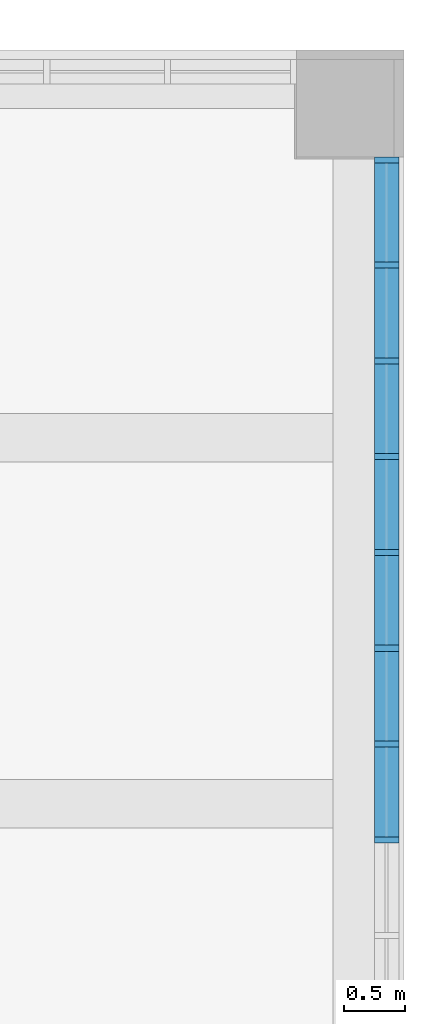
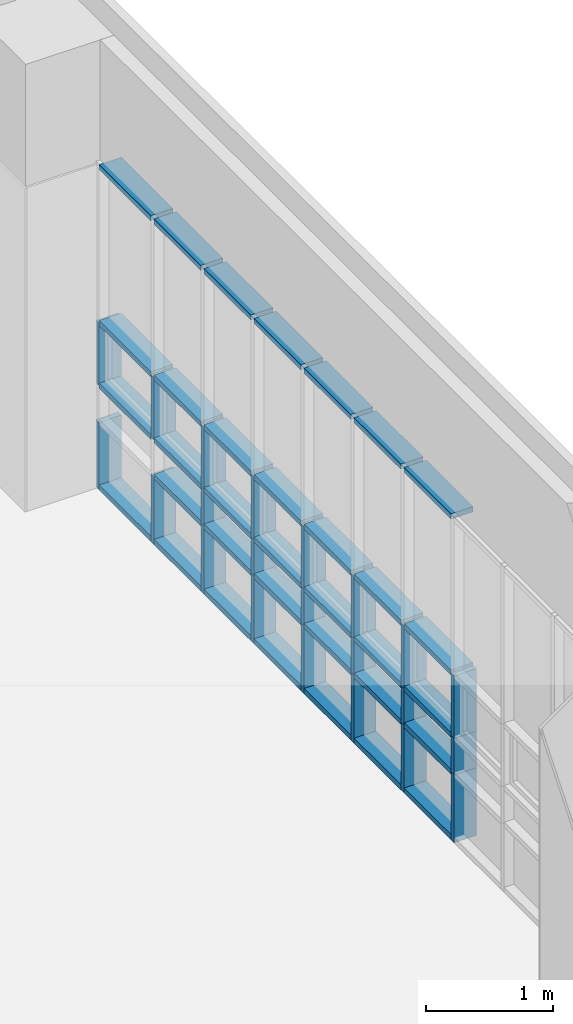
# One storey, part 27 of 74: 56 members, 1 element without a shape of its own.
"""IFC2X3 building model written with IfcOpenShell, lengths in millimetres."""

from ifc_helpers import new_model, entity, si_unit, converted_unit, derived_unit, direction, frame, origin, origin_2d_with_axis, place, context, subcontext, project, spatial, rectangle, extrude, source, transform, mapped, material, type_object, type_shapes, element, aggregate, save


model = new_model("IFC2X3")

# Units and contexts
model_context = context("Model", 3, precision=0.01, world=origin(), true_north=direction((6.123031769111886e-17, 1.0)))
body_context = subcontext(model_context, "Body", "Model", "MODEL_VIEW")
ifc_project = project(units=[si_unit("LENGTHUNIT", "METRE", prefix="MILLI"), si_unit("AREAUNIT", "SQUARE_METRE"), si_unit("VOLUMEUNIT", "CUBIC_METRE"), converted_unit("PLANEANGLEUNIT", "DEGREE", entity("IfcRatioMeasure", 0.017453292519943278), si_unit("PLANEANGLEUNIT", "RADIAN"), dimensions=[0, 0, 0, 0, 0, 0, 0]), si_unit("MASSUNIT", "GRAM", prefix="KILO"), derived_unit("MASSDENSITYUNIT", [(si_unit("MASSUNIT", "GRAM", prefix="KILO"), 1), (si_unit("LENGTHUNIT", "METRE"), -3)]), derived_unit("MOMENTOFINERTIAUNIT", [(si_unit("LENGTHUNIT", "METRE"), 4)]), si_unit("TIMEUNIT", "SECOND"), si_unit("FREQUENCYUNIT", "HERTZ"), si_unit("THERMODYNAMICTEMPERATUREUNIT", "DEGREE_CELSIUS"), derived_unit("THERMALTRANSMITTANCEUNIT", [(si_unit("MASSUNIT", "GRAM", prefix="KILO"), 1), (si_unit("THERMODYNAMICTEMPERATUREUNIT", "KELVIN"), -1), (si_unit("TIMEUNIT", "SECOND"), -3)]), derived_unit("VOLUMETRICFLOWRATEUNIT", [(si_unit("LENGTHUNIT", "METRE"), 3), (si_unit("TIMEUNIT", "SECOND"), -1)]), derived_unit("MASSFLOWRATEUNIT", [(si_unit("MASSUNIT", "GRAM", prefix="KILO"), 1), (si_unit("TIMEUNIT", "SECOND"), -1)]), derived_unit("ROTATIONALFREQUENCYUNIT", [(si_unit("TIMEUNIT", "SECOND"), -1)]), si_unit("ELECTRICCURRENTUNIT", "AMPERE"), si_unit("ELECTRICVOLTAGEUNIT", "VOLT"), si_unit("POWERUNIT", "WATT"), si_unit("FORCEUNIT", "NEWTON", prefix="KILO"), si_unit("ILLUMINANCEUNIT", "LUX"), si_unit("LUMINOUSFLUXUNIT", "LUMEN"), si_unit("LUMINOUSINTENSITYUNIT", "CANDELA"), derived_unit("USERDEFINED", [(si_unit("MASSUNIT", "GRAM", prefix="KILO"), -1), (si_unit("LENGTHUNIT", "METRE"), -2), (si_unit("TIMEUNIT", "SECOND"), 3), (si_unit("LUMINOUSFLUXUNIT", "LUMEN"), 1)]), derived_unit("SOUNDPOWERUNIT", [(si_unit("MASSUNIT", "GRAM", prefix="KILO"), 1), (si_unit("LENGTHUNIT", "METRE"), 2), (si_unit("TIMEUNIT", "SECOND"), -3)]), derived_unit("SOUNDPRESSUREUNIT", [(si_unit("MASSUNIT", "GRAM", prefix="KILO"), 1), (si_unit("LENGTHUNIT", "METRE"), -1), (si_unit("TIMEUNIT", "SECOND"), -2)]), derived_unit("LINEARVELOCITYUNIT", [(si_unit("LENGTHUNIT", "METRE"), 1), (si_unit("TIMEUNIT", "SECOND"), -1)]), si_unit("PRESSUREUNIT", "PASCAL"), derived_unit("USERDEFINED", [(si_unit("LENGTHUNIT", "METRE"), -2), (si_unit("MASSUNIT", "GRAM", prefix="KILO"), 1), (si_unit("TIMEUNIT", "SECOND"), -2)]), derived_unit("LINEARFORCEUNIT", [(si_unit("MASSUNIT", "GRAM", prefix="KILO"), 1), (si_unit("LENGTHUNIT", "METRE"), 1), (si_unit("TIMEUNIT", "SECOND"), -2), (si_unit("LENGTHUNIT", "METRE"), -1)]), derived_unit("PLANARFORCEUNIT", [(si_unit("MASSUNIT", "GRAM", prefix="KILO"), 1), (si_unit("LENGTHUNIT", "METRE"), 1), (si_unit("TIMEUNIT", "SECOND"), -2), (si_unit("LENGTHUNIT", "METRE"), -2)])], contexts=[model_context])

# Site, building, storey
site_placement = place(None, frame((-14167.972527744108, -657.2125860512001, 0.0)))
site = spatial("IfcSite", under=ifc_project, at=site_placement, Name="Default", CompositionType="ELEMENT")
building_placement = place(site_placement, origin())
building = spatial("IfcBuilding", under=site, at=building_placement, Name="Sample Building", CompositionType="ELEMENT")
storey_placement = place(building_placement, frame((0.0, 0.0, 4800.0)))
storey = spatial("IfcBuildingStorey", under=building, at=storey_placement, Name="지상 2층", CompositionType="ELEMENT", Elevation=4800.000000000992)

# Curtain wall, members
curtain_wall_type = type_object("IfcCurtainWallType", Name="커튼월:CW112-스테인리스 스틸 커튼월", PredefinedType="NOTDEFINED")
curtain_wall_placement = place(storey_placement, frame((0.0, 0.0, -4800.0)))
curtain_wall = element("IfcCurtainWall", 1, at=curtain_wall_placement, inside=storey, type_object=curtain_wall_type, Name="커튼월:CW112-스테인리스 스틸 커튼월", ObjectType="커튼월:CW112-스테인리스 스틸 커튼월")
ifc_material = material(Name="<Unnamed>")
member_type_1 = type_object("IfcMemberType", Name="직사각형 멀리언:CW200-직사각형 멀리언 50x200mm", PredefinedType="MULLION", material=ifc_material)
shared_shape_1 = source(origin(), body_context, "Body", "SweptSolid", [
    extrude(rectangle(XDim=200.0, YDim=50.0, at=origin_2d_with_axis()), frame((-25.0, 0.0, -650.0), z_axis=(0.0, 0.0, 1.0), x_axis=(0.0, -1.0, 0.0)), (0.0, 0.0, 1.0), 650.0000000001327),
])
type_shapes(member_type_1, [shared_shape_1])
member_1_placement = place(curtain_wall_placement, frame((51405.46382893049, 28457.212704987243, 4880.0), z_axis=(0.0, 0.0, -1.0), x_axis=(0.0, 1.0, 0.0)))
member_1 = element("IfcMember", 2, at=member_1_placement, type_object=member_type_1, material=ifc_material, Name="직사각형 멀리언:CW200-직사각형 멀리언 50x200mm", ObjectType="직사각형 멀리언:CW200-직사각형 멀리언 50x200mm", context=body_context, shape_type="MappedRepresentation", body=[
    mapped(shared_shape_1, transform((0.0, 0.0, 0.0), scale=1.0)),
])
member_type_2 = type_object("IfcMemberType", Name="직사각형 멀리언:CW200-직사각형 멀리언 50x200mm", PredefinedType="MULLION", material=ifc_material)
shared_shape_2 = source(origin(), body_context, "Body", "SweptSolid", [
    extrude(rectangle(XDim=200.0, YDim=50.0, at=origin_2d_with_axis()), frame((0.0, 0.0, -650.0), z_axis=(0.0, 0.0, 1.0), x_axis=(0.0, -1.0, 0.0)), (0.0, 0.0, 1.0), 650.0000000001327),
])
type_shapes(member_type_2, [shared_shape_2])
member_2_placement = place(curtain_wall_placement, frame((51405.463828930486, 22862.212275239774, 4880.0), z_axis=(0.0, 0.0, -1.0), x_axis=(0.0, 1.0, 0.0)))
member_2 = element("IfcMember", 3, at=member_2_placement, type_object=member_type_2, material=ifc_material, Name="직사각형 멀리언:CW200-직사각형 멀리언 50x200mm", ObjectType="직사각형 멀리언:CW200-직사각형 멀리언 50x200mm", context=body_context, shape_type="MappedRepresentation", body=[
    mapped(shared_shape_2, transform((0.0, 0.0, 0.0), scale=1.0)),
])
member_3_placement = place(curtain_wall_placement, frame((51405.463828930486, 23647.212275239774, 4880.0), z_axis=(0.0, 0.0, -1.0), x_axis=(0.0, 1.0, 0.0)))
member_3 = element("IfcMember", 4, at=member_3_placement, type_object=member_type_2, material=ifc_material, Name="직사각형 멀리언:CW200-직사각형 멀리언 50x200mm", ObjectType="직사각형 멀리언:CW200-직사각형 멀리언 50x200mm", context=body_context, shape_type="MappedRepresentation", body=[
    mapped(shared_shape_2, transform((0.0, 0.0, 0.0), scale=1.0)),
])
member_4_placement = place(curtain_wall_placement, frame((51405.463828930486, 24432.212275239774, 4880.0), z_axis=(0.0, 0.0, -1.0), x_axis=(0.0, 1.0, 0.0)))
member_4 = element("IfcMember", 5, at=member_4_placement, type_object=member_type_2, material=ifc_material, Name="직사각형 멀리언:CW200-직사각형 멀리언 50x200mm", ObjectType="직사각형 멀리언:CW200-직사각형 멀리언 50x200mm", context=body_context, shape_type="MappedRepresentation", body=[
    mapped(shared_shape_2, transform((0.0, 0.0, 0.0), scale=1.0)),
])
member_5_placement = place(curtain_wall_placement, frame((51405.46382893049, 25217.212275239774, 4880.0), z_axis=(0.0, 0.0, -1.0), x_axis=(0.0, 1.0, 0.0)))
member_5 = element("IfcMember", 6, at=member_5_placement, type_object=member_type_2, material=ifc_material, Name="직사각형 멀리언:CW200-직사각형 멀리언 50x200mm", ObjectType="직사각형 멀리언:CW200-직사각형 멀리언 50x200mm", context=body_context, shape_type="MappedRepresentation", body=[
    mapped(shared_shape_2, transform((0.0, 0.0, 0.0), scale=1.0)),
])
member_6_placement = place(curtain_wall_placement, frame((51405.46382893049, 26002.21227523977, 4880.0), z_axis=(0.0, 0.0, -1.0), x_axis=(0.0, 1.0, 0.0)))
member_6 = element("IfcMember", 7, at=member_6_placement, type_object=member_type_2, material=ifc_material, Name="직사각형 멀리언:CW200-직사각형 멀리언 50x200mm", ObjectType="직사각형 멀리언:CW200-직사각형 멀리언 50x200mm", context=body_context, shape_type="MappedRepresentation", body=[
    mapped(shared_shape_2, transform((0.0, 0.0, 0.0), scale=1.0)),
])
member_7_placement = place(curtain_wall_placement, frame((51405.46382893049, 26787.21227523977, 4880.0), z_axis=(0.0, 0.0, -1.0), x_axis=(0.0, 1.0, 0.0)))
member_7 = element("IfcMember", 8, at=member_7_placement, type_object=member_type_2, material=ifc_material, Name="직사각형 멀리언:CW200-직사각형 멀리언 50x200mm", ObjectType="직사각형 멀리언:CW200-직사각형 멀리언 50x200mm", context=body_context, shape_type="MappedRepresentation", body=[
    mapped(shared_shape_2, transform((0.0, 0.0, 0.0), scale=1.0)),
])
member_8_placement = place(curtain_wall_placement, frame((51405.46382893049, 27572.21227523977, 4880.0), z_axis=(0.0, 0.0, -1.0), x_axis=(0.0, 1.0, 0.0)))
member_8 = element("IfcMember", 9, at=member_8_placement, type_object=member_type_2, material=ifc_material, Name="직사각형 멀리언:CW200-직사각형 멀리언 50x200mm", ObjectType="직사각형 멀리언:CW200-직사각형 멀리언 50x200mm", context=body_context, shape_type="MappedRepresentation", body=[
    mapped(shared_shape_2, transform((0.0, 0.0, 0.0), scale=1.0)),
])
member_type_3 = type_object("IfcMemberType", Name="직사각형 멀리언:CW200-직사각형 멀리언 50x200mm", PredefinedType="MULLION", material=ifc_material)
shared_shape_3 = source(origin(), body_context, "Body", "SweptSolid", [
    extrude(rectangle(XDim=200.0, YDim=50.0, at=origin_2d_with_axis()), frame((-25.0, 0.0, -600.0), z_axis=(0.0, 0.0, 1.0), x_axis=(0.0, -1.0, 0.0)), (0.0, 0.0, 1.0), 600.0),
])
type_shapes(member_type_3, [shared_shape_3])
member_9_placement = place(curtain_wall_placement, frame((51405.46382893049, 28457.212704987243, 5880.0), z_axis=(0.0, 0.0, -1.0), x_axis=(0.0, 1.0, 0.0)))
member_9 = element("IfcMember", 10, at=member_9_placement, type_object=member_type_3, material=ifc_material, Name="직사각형 멀리언:CW200-직사각형 멀리언 50x200mm", ObjectType="직사각형 멀리언:CW200-직사각형 멀리언 50x200mm", context=body_context, shape_type="MappedRepresentation", body=[
    mapped(shared_shape_3, transform((0.0, 0.0, 0.0), scale=1.0)),
])
member_type_4 = type_object("IfcMemberType", Name="직사각형 멀리언:CW200-직사각형 멀리언 50x200mm", PredefinedType="MULLION", material=ifc_material)
shared_shape_4 = source(origin(), body_context, "Body", "SweptSolid", [
    extrude(rectangle(XDim=200.0, YDim=50.0, at=origin_2d_with_axis()), frame((0.0, 0.0, -600.0), z_axis=(0.0, 0.0, 1.0), x_axis=(0.0, -1.0, 0.0)), (0.0, 0.0, 1.0), 600.0),
])
type_shapes(member_type_4, [shared_shape_4])
member_10_placement = place(curtain_wall_placement, frame((51405.463828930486, 22862.212275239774, 5880.0), z_axis=(0.0, 0.0, -1.0), x_axis=(0.0, 1.0, 0.0)))
member_10 = element("IfcMember", 11, at=member_10_placement, type_object=member_type_4, material=ifc_material, Name="직사각형 멀리언:CW200-직사각형 멀리언 50x200mm", ObjectType="직사각형 멀리언:CW200-직사각형 멀리언 50x200mm", context=body_context, shape_type="MappedRepresentation", body=[
    mapped(shared_shape_4, transform((0.0, 0.0, 0.0), scale=1.0)),
])
member_11_placement = place(curtain_wall_placement, frame((51405.463828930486, 23647.212275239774, 5880.0), z_axis=(0.0, 0.0, -1.0), x_axis=(0.0, 1.0, 0.0)))
member_11 = element("IfcMember", 12, at=member_11_placement, type_object=member_type_4, material=ifc_material, Name="직사각형 멀리언:CW200-직사각형 멀리언 50x200mm", ObjectType="직사각형 멀리언:CW200-직사각형 멀리언 50x200mm", context=body_context, shape_type="MappedRepresentation", body=[
    mapped(shared_shape_4, transform((0.0, 0.0, 0.0), scale=1.0)),
])
member_12_placement = place(curtain_wall_placement, frame((51405.463828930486, 24432.212275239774, 5880.0), z_axis=(0.0, 0.0, -1.0), x_axis=(0.0, 1.0, 0.0)))
member_12 = element("IfcMember", 13, at=member_12_placement, type_object=member_type_4, material=ifc_material, Name="직사각형 멀리언:CW200-직사각형 멀리언 50x200mm", ObjectType="직사각형 멀리언:CW200-직사각형 멀리언 50x200mm", context=body_context, shape_type="MappedRepresentation", body=[
    mapped(shared_shape_4, transform((0.0, 0.0, 0.0), scale=1.0)),
])
member_13_placement = place(curtain_wall_placement, frame((51405.46382893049, 25217.212275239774, 5880.0), z_axis=(0.0, 0.0, -1.0), x_axis=(0.0, 1.0, 0.0)))
member_13 = element("IfcMember", 14, at=member_13_placement, type_object=member_type_4, material=ifc_material, Name="직사각형 멀리언:CW200-직사각형 멀리언 50x200mm", ObjectType="직사각형 멀리언:CW200-직사각형 멀리언 50x200mm", context=body_context, shape_type="MappedRepresentation", body=[
    mapped(shared_shape_4, transform((0.0, 0.0, 0.0), scale=1.0)),
])
member_14_placement = place(curtain_wall_placement, frame((51405.46382893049, 26002.21227523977, 5880.0), z_axis=(0.0, 0.0, -1.0), x_axis=(0.0, 1.0, 0.0)))
member_14 = element("IfcMember", 15, at=member_14_placement, type_object=member_type_4, material=ifc_material, Name="직사각형 멀리언:CW200-직사각형 멀리언 50x200mm", ObjectType="직사각형 멀리언:CW200-직사각형 멀리언 50x200mm", context=body_context, shape_type="MappedRepresentation", body=[
    mapped(shared_shape_4, transform((0.0, 0.0, 0.0), scale=1.0)),
])
member_15_placement = place(curtain_wall_placement, frame((51405.46382893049, 26787.21227523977, 5880.0), z_axis=(0.0, 0.0, -1.0), x_axis=(0.0, 1.0, 0.0)))
member_15 = element("IfcMember", 16, at=member_15_placement, type_object=member_type_4, material=ifc_material, Name="직사각형 멀리언:CW200-직사각형 멀리언 50x200mm", ObjectType="직사각형 멀리언:CW200-직사각형 멀리언 50x200mm", context=body_context, shape_type="MappedRepresentation", body=[
    mapped(shared_shape_4, transform((0.0, 0.0, 0.0), scale=1.0)),
])
member_16_placement = place(curtain_wall_placement, frame((51405.46382893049, 27572.21227523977, 5880.0), z_axis=(0.0, 0.0, -1.0), x_axis=(0.0, 1.0, 0.0)))
member_16 = element("IfcMember", 17, at=member_16_placement, type_object=member_type_4, material=ifc_material, Name="직사각형 멀리언:CW200-직사각형 멀리언 50x200mm", ObjectType="직사각형 멀리언:CW200-직사각형 멀리언 50x200mm", context=body_context, shape_type="MappedRepresentation", body=[
    mapped(shared_shape_4, transform((0.0, 0.0, 0.0), scale=1.0)),
])
member_type_5 = type_object("IfcMemberType", Name="직사각형 멀리언:CW200-직사각형 멀리언 50x200mm", PredefinedType="MULLION", material=ifc_material)
shared_shape_5 = source(origin(), body_context, "Body", "SweptSolid", [
    extrude(rectangle(XDim=200.0, YDim=50.0, at=origin_2d_with_axis()), frame((0.0, 0.0, -350.0), z_axis=(0.0, 0.0, 1.0), x_axis=(0.0, -1.0, 0.0)), (0.0, 0.0, 1.0), 349.9999999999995),
])
type_shapes(member_type_5, [shared_shape_5])
member_17_placement = place(curtain_wall_placement, frame((51405.463828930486, 22862.212275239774, 5530.0), z_axis=(0.0, 0.0, -1.0), x_axis=(0.0, 1.0, 0.0)))
member_17 = element("IfcMember", 18, at=member_17_placement, type_object=member_type_5, material=ifc_material, Name="직사각형 멀리언:CW200-직사각형 멀리언 50x200mm", ObjectType="직사각형 멀리언:CW200-직사각형 멀리언 50x200mm", context=body_context, shape_type="MappedRepresentation", body=[
    mapped(shared_shape_5, transform((0.0, 0.0, 0.0), scale=1.0)),
])
member_18_placement = place(curtain_wall_placement, frame((51405.463828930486, 23647.212275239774, 5530.0), z_axis=(0.0, 0.0, -1.0), x_axis=(0.0, 1.0, 0.0)))
member_18 = element("IfcMember", 19, at=member_18_placement, type_object=member_type_5, material=ifc_material, Name="직사각형 멀리언:CW200-직사각형 멀리언 50x200mm", ObjectType="직사각형 멀리언:CW200-직사각형 멀리언 50x200mm", context=body_context, shape_type="MappedRepresentation", body=[
    mapped(shared_shape_5, transform((0.0, 0.0, 0.0), scale=1.0)),
])
member_19_placement = place(curtain_wall_placement, frame((51405.463828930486, 24432.212275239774, 5530.0), z_axis=(0.0, 0.0, -1.0), x_axis=(0.0, 1.0, 0.0)))
member_19 = element("IfcMember", 20, at=member_19_placement, type_object=member_type_5, material=ifc_material, Name="직사각형 멀리언:CW200-직사각형 멀리언 50x200mm", ObjectType="직사각형 멀리언:CW200-직사각형 멀리언 50x200mm", context=body_context, shape_type="MappedRepresentation", body=[
    mapped(shared_shape_5, transform((0.0, 0.0, 0.0), scale=1.0)),
])
member_20_placement = place(curtain_wall_placement, frame((51405.46382893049, 25217.212275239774, 5530.0), z_axis=(0.0, 0.0, -1.0), x_axis=(0.0, 1.0, 0.0)))
member_20 = element("IfcMember", 21, at=member_20_placement, type_object=member_type_5, material=ifc_material, Name="직사각형 멀리언:CW200-직사각형 멀리언 50x200mm", ObjectType="직사각형 멀리언:CW200-직사각형 멀리언 50x200mm", context=body_context, shape_type="MappedRepresentation", body=[
    mapped(shared_shape_5, transform((0.0, 0.0, 0.0), scale=1.0)),
])
member_21_placement = place(curtain_wall_placement, frame((51405.46382893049, 26002.21227523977, 5530.0), z_axis=(0.0, 0.0, -1.0), x_axis=(0.0, 1.0, 0.0)))
member_21 = element("IfcMember", 22, at=member_21_placement, type_object=member_type_5, material=ifc_material, Name="직사각형 멀리언:CW200-직사각형 멀리언 50x200mm", ObjectType="직사각형 멀리언:CW200-직사각형 멀리언 50x200mm", context=body_context, shape_type="MappedRepresentation", body=[
    mapped(shared_shape_5, transform((0.0, 0.0, 0.0), scale=1.0)),
])
member_22_placement = place(curtain_wall_placement, frame((51405.46382893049, 26787.21227523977, 5530.0), z_axis=(0.0, 0.0, -1.0), x_axis=(0.0, 1.0, 0.0)))
member_22 = element("IfcMember", 23, at=member_22_placement, type_object=member_type_5, material=ifc_material, Name="직사각형 멀리언:CW200-직사각형 멀리언 50x200mm", ObjectType="직사각형 멀리언:CW200-직사각형 멀리언 50x200mm", context=body_context, shape_type="MappedRepresentation", body=[
    mapped(shared_shape_5, transform((0.0, 0.0, 0.0), scale=1.0)),
])
member_type_6 = type_object("IfcMemberType", Name="직사각형 멀리언:CW200-직사각형 멀리언 50x200mm", PredefinedType="MULLION", material=ifc_material)
shared_shape_6 = source(origin(), body_context, "Body", "SweptSolid", [
    extrude(rectangle(XDim=200.0, YDim=50.0, at=origin_2d_with_axis()), frame((-25.0, 0.0, -810.0004297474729), z_axis=(0.0, 0.0, 1.0), x_axis=(0.0, -1.0, 0.0)), (0.0, 0.0, 1.0), 810.0004297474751),
])
type_shapes(member_type_6, [shared_shape_6])
member_23_placement = place(curtain_wall_placement, frame((51405.46382893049, 28407.212704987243, 8000.0), z_axis=(0.0, 1.0, 0.0), x_axis=(0.0, 0.0, 1.0)))
member_23 = element("IfcMember", 24, at=member_23_placement, type_object=member_type_6, material=ifc_material, Name="직사각형 멀리언:CW200-직사각형 멀리언 50x200mm", ObjectType="직사각형 멀리언:CW200-직사각형 멀리언 50x200mm", context=body_context, shape_type="MappedRepresentation", body=[
    mapped(shared_shape_6, transform((0.0, 0.0, 0.0), scale=1.0)),
])
member_type_7 = type_object("IfcMemberType", Name="직사각형 멀리언:CW200-직사각형 멀리언 50x200mm", PredefinedType="MULLION", material=ifc_material)
shared_shape_7 = source(origin(), body_context, "Body", "SweptSolid", [
    extrude(rectangle(XDim=200.0, YDim=50.0, at=origin_2d_with_axis()), frame((-25.0, 0.0, -735.0), z_axis=(0.0, 0.0, 1.0), x_axis=(0.0, -1.0, 0.0)), (0.0, 0.0, 1.0), 734.9999999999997),
])
type_shapes(member_type_7, [shared_shape_7])
member_24_placement = place(curtain_wall_placement, frame((51405.463828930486, 22887.212275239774, 4880.0), z_axis=(0.0, -1.0, 0.0), x_axis=(0.0, 0.0, -1.0)))
member_24 = element("IfcMember", 25, at=member_24_placement, type_object=member_type_7, material=ifc_material, Name="직사각형 멀리언:CW200-직사각형 멀리언 50x200mm", ObjectType="직사각형 멀리언:CW200-직사각형 멀리언 50x200mm", context=body_context, shape_type="MappedRepresentation", body=[
    mapped(shared_shape_7, transform((0.0, 0.0, 0.0), scale=1.0)),
])
member_25_placement = place(curtain_wall_placement, frame((51405.463828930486, 23672.212275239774, 4880.0), z_axis=(0.0, -1.0, 0.0), x_axis=(0.0, 0.0, -1.0)))
member_25 = element("IfcMember", 26, at=member_25_placement, type_object=member_type_7, material=ifc_material, Name="직사각형 멀리언:CW200-직사각형 멀리언 50x200mm", ObjectType="직사각형 멀리언:CW200-직사각형 멀리언 50x200mm", context=body_context, shape_type="MappedRepresentation", body=[
    mapped(shared_shape_7, transform((0.0, 0.0, 0.0), scale=1.0)),
])
member_26_placement = place(curtain_wall_placement, frame((51405.463828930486, 24457.212275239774, 4880.0), z_axis=(0.0, -1.0, 0.0), x_axis=(0.0, 0.0, -1.0)))
member_26 = element("IfcMember", 27, at=member_26_placement, type_object=member_type_7, material=ifc_material, Name="직사각형 멀리언:CW200-직사각형 멀리언 50x200mm", ObjectType="직사각형 멀리언:CW200-직사각형 멀리언 50x200mm", context=body_context, shape_type="MappedRepresentation", body=[
    mapped(shared_shape_7, transform((0.0, 0.0, 0.0), scale=1.0)),
])
member_27_placement = place(curtain_wall_placement, frame((51405.46382893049, 25242.21227523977, 4880.0), z_axis=(0.0, -1.0, 0.0), x_axis=(0.0, 0.0, -1.0)))
member_27 = element("IfcMember", 28, at=member_27_placement, type_object=member_type_7, material=ifc_material, Name="직사각형 멀리언:CW200-직사각형 멀리언 50x200mm", ObjectType="직사각형 멀리언:CW200-직사각형 멀리언 50x200mm", context=body_context, shape_type="MappedRepresentation", body=[
    mapped(shared_shape_7, transform((0.0, 0.0, 0.0), scale=1.0)),
])
member_28_placement = place(curtain_wall_placement, frame((51405.46382893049, 26027.21227523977, 4880.0), z_axis=(0.0, -1.0, 0.0), x_axis=(0.0, 0.0, -1.0)))
member_28 = element("IfcMember", 29, at=member_28_placement, type_object=member_type_7, material=ifc_material, Name="직사각형 멀리언:CW200-직사각형 멀리언 50x200mm", ObjectType="직사각형 멀리언:CW200-직사각형 멀리언 50x200mm", context=body_context, shape_type="MappedRepresentation", body=[
    mapped(shared_shape_7, transform((0.0, 0.0, 0.0), scale=1.0)),
])
member_29_placement = place(curtain_wall_placement, frame((51405.46382893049, 26812.21227523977, 4880.0), z_axis=(0.0, -1.0, 0.0), x_axis=(0.0, 0.0, -1.0)))
member_29 = element("IfcMember", 30, at=member_29_placement, type_object=member_type_7, material=ifc_material, Name="직사각형 멀리언:CW200-직사각형 멀리언 50x200mm", ObjectType="직사각형 멀리언:CW200-직사각형 멀리언 50x200mm", context=body_context, shape_type="MappedRepresentation", body=[
    mapped(shared_shape_7, transform((0.0, 0.0, 0.0), scale=1.0)),
])
member_type_8 = type_object("IfcMemberType", Name="직사각형 멀리언:CW200-직사각형 멀리언 50x200mm", PredefinedType="MULLION", material=ifc_material)
shared_shape_8 = source(origin(), body_context, "Body", "SweptSolid", [
    extrude(rectangle(XDim=200.0, YDim=50.0, at=origin_2d_with_axis()), frame((0.0, 0.0, -735.0), z_axis=(0.0, 0.0, 1.0), x_axis=(0.0, -1.0, 0.0)), (0.0, 0.0, 1.0), 734.9999999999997),
])
type_shapes(member_type_8, [shared_shape_8])
member_30_placement = place(curtain_wall_placement, frame((51405.463828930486, 23622.212275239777, 6480.0), z_axis=(0.0, 1.0, 0.0), x_axis=(0.0, 0.0, 1.0)))
member_30 = element("IfcMember", 31, at=member_30_placement, type_object=member_type_8, material=ifc_material, Name="직사각형 멀리언:CW200-직사각형 멀리언 50x200mm", ObjectType="직사각형 멀리언:CW200-직사각형 멀리언 50x200mm", context=body_context, shape_type="MappedRepresentation", body=[
    mapped(shared_shape_8, transform((0.0, 0.0, 0.0), scale=1.0)),
])
member_31_placement = place(curtain_wall_placement, frame((51405.463828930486, 24407.212275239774, 6480.0), z_axis=(0.0, 1.0, 0.0), x_axis=(0.0, 0.0, 1.0)))
member_31 = element("IfcMember", 32, at=member_31_placement, type_object=member_type_8, material=ifc_material, Name="직사각형 멀리언:CW200-직사각형 멀리언 50x200mm", ObjectType="직사각형 멀리언:CW200-직사각형 멀리언 50x200mm", context=body_context, shape_type="MappedRepresentation", body=[
    mapped(shared_shape_8, transform((0.0, 0.0, 0.0), scale=1.0)),
])
member_32_placement = place(curtain_wall_placement, frame((51405.46382893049, 25192.212275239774, 6480.0), z_axis=(0.0, 1.0, 0.0), x_axis=(0.0, 0.0, 1.0)))
member_32 = element("IfcMember", 33, at=member_32_placement, type_object=member_type_8, material=ifc_material, Name="직사각형 멀리언:CW200-직사각형 멀리언 50x200mm", ObjectType="직사각형 멀리언:CW200-직사각형 멀리언 50x200mm", context=body_context, shape_type="MappedRepresentation", body=[
    mapped(shared_shape_8, transform((0.0, 0.0, 0.0), scale=1.0)),
])
member_33_placement = place(curtain_wall_placement, frame((51405.46382893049, 25977.212275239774, 6480.0), z_axis=(0.0, 1.0, 0.0), x_axis=(0.0, 0.0, 1.0)))
member_33 = element("IfcMember", 34, at=member_33_placement, type_object=member_type_8, material=ifc_material, Name="직사각형 멀리언:CW200-직사각형 멀리언 50x200mm", ObjectType="직사각형 멀리언:CW200-직사각형 멀리언 50x200mm", context=body_context, shape_type="MappedRepresentation", body=[
    mapped(shared_shape_8, transform((0.0, 0.0, 0.0), scale=1.0)),
])
member_34_placement = place(curtain_wall_placement, frame((51405.46382893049, 26762.212275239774, 6480.0), z_axis=(0.0, 1.0, 0.0), x_axis=(0.0, 0.0, 1.0)))
member_34 = element("IfcMember", 35, at=member_34_placement, type_object=member_type_8, material=ifc_material, Name="직사각형 멀리언:CW200-직사각형 멀리언 50x200mm", ObjectType="직사각형 멀리언:CW200-직사각형 멀리언 50x200mm", context=body_context, shape_type="MappedRepresentation", body=[
    mapped(shared_shape_8, transform((0.0, 0.0, 0.0), scale=1.0)),
])
member_35_placement = place(curtain_wall_placement, frame((51405.46382893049, 27547.21227523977, 6480.0), z_axis=(0.0, 1.0, 0.0), x_axis=(0.0, 0.0, 1.0)))
member_35 = element("IfcMember", 36, at=member_35_placement, type_object=member_type_8, material=ifc_material, Name="직사각형 멀리언:CW200-직사각형 멀리언 50x200mm", ObjectType="직사각형 멀리언:CW200-직사각형 멀리언 50x200mm", context=body_context, shape_type="MappedRepresentation", body=[
    mapped(shared_shape_8, transform((0.0, 0.0, 0.0), scale=1.0)),
])
member_36_placement = place(curtain_wall_placement, frame((51405.463828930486, 23622.212275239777, 5880.0), z_axis=(0.0, 1.0, 0.0), x_axis=(0.0, 0.0, 1.0)))
member_36 = element("IfcMember", 37, at=member_36_placement, type_object=member_type_8, material=ifc_material, Name="직사각형 멀리언:CW200-직사각형 멀리언 50x200mm", ObjectType="직사각형 멀리언:CW200-직사각형 멀리언 50x200mm", context=body_context, shape_type="MappedRepresentation", body=[
    mapped(shared_shape_8, transform((0.0, 0.0, 0.0), scale=1.0)),
])
member_37_placement = place(curtain_wall_placement, frame((51405.463828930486, 24407.212275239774, 5880.0), z_axis=(0.0, 1.0, 0.0), x_axis=(0.0, 0.0, 1.0)))
member_37 = element("IfcMember", 38, at=member_37_placement, type_object=member_type_8, material=ifc_material, Name="직사각형 멀리언:CW200-직사각형 멀리언 50x200mm", ObjectType="직사각형 멀리언:CW200-직사각형 멀리언 50x200mm", context=body_context, shape_type="MappedRepresentation", body=[
    mapped(shared_shape_8, transform((0.0, 0.0, 0.0), scale=1.0)),
])
member_38_placement = place(curtain_wall_placement, frame((51405.46382893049, 25192.212275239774, 5880.0), z_axis=(0.0, 1.0, 0.0), x_axis=(0.0, 0.0, 1.0)))
member_38 = element("IfcMember", 39, at=member_38_placement, type_object=member_type_8, material=ifc_material, Name="직사각형 멀리언:CW200-직사각형 멀리언 50x200mm", ObjectType="직사각형 멀리언:CW200-직사각형 멀리언 50x200mm", context=body_context, shape_type="MappedRepresentation", body=[
    mapped(shared_shape_8, transform((0.0, 0.0, 0.0), scale=1.0)),
])
member_39_placement = place(curtain_wall_placement, frame((51405.46382893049, 25977.212275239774, 5880.0), z_axis=(0.0, 1.0, 0.0), x_axis=(0.0, 0.0, 1.0)))
member_39 = element("IfcMember", 40, at=member_39_placement, type_object=member_type_8, material=ifc_material, Name="직사각형 멀리언:CW200-직사각형 멀리언 50x200mm", ObjectType="직사각형 멀리언:CW200-직사각형 멀리언 50x200mm", context=body_context, shape_type="MappedRepresentation", body=[
    mapped(shared_shape_8, transform((0.0, 0.0, 0.0), scale=1.0)),
])
member_40_placement = place(curtain_wall_placement, frame((51405.46382893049, 26762.212275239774, 5880.0), z_axis=(0.0, 1.0, 0.0), x_axis=(0.0, 0.0, 1.0)))
member_40 = element("IfcMember", 41, at=member_40_placement, type_object=member_type_8, material=ifc_material, Name="직사각형 멀리언:CW200-직사각형 멀리언 50x200mm", ObjectType="직사각형 멀리언:CW200-직사각형 멀리언 50x200mm", context=body_context, shape_type="MappedRepresentation", body=[
    mapped(shared_shape_8, transform((0.0, 0.0, 0.0), scale=1.0)),
])
member_41_placement = place(curtain_wall_placement, frame((51405.46382893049, 27547.21227523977, 5880.0), z_axis=(0.0, 1.0, 0.0), x_axis=(0.0, 0.0, 1.0)))
member_41 = element("IfcMember", 42, at=member_41_placement, type_object=member_type_8, material=ifc_material, Name="직사각형 멀리언:CW200-직사각형 멀리언 50x200mm", ObjectType="직사각형 멀리언:CW200-직사각형 멀리언 50x200mm", context=body_context, shape_type="MappedRepresentation", body=[
    mapped(shared_shape_8, transform((0.0, 0.0, 0.0), scale=1.0)),
])
member_42_placement = place(curtain_wall_placement, frame((51405.463828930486, 23622.212275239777, 5530.0), z_axis=(0.0, 1.0, 0.0), x_axis=(0.0, 0.0, 1.0)))
member_42 = element("IfcMember", 43, at=member_42_placement, type_object=member_type_8, material=ifc_material, Name="직사각형 멀리언:CW200-직사각형 멀리언 50x200mm", ObjectType="직사각형 멀리언:CW200-직사각형 멀리언 50x200mm", context=body_context, shape_type="MappedRepresentation", body=[
    mapped(shared_shape_8, transform((0.0, 0.0, 0.0), scale=1.0)),
])
member_43_placement = place(curtain_wall_placement, frame((51405.463828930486, 24407.212275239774, 5530.0), z_axis=(0.0, 1.0, 0.0), x_axis=(0.0, 0.0, 1.0)))
member_43 = element("IfcMember", 44, at=member_43_placement, type_object=member_type_8, material=ifc_material, Name="직사각형 멀리언:CW200-직사각형 멀리언 50x200mm", ObjectType="직사각형 멀리언:CW200-직사각형 멀리언 50x200mm", context=body_context, shape_type="MappedRepresentation", body=[
    mapped(shared_shape_8, transform((0.0, 0.0, 0.0), scale=1.0)),
])
member_44_placement = place(curtain_wall_placement, frame((51405.46382893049, 25192.212275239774, 5530.0), z_axis=(0.0, 1.0, 0.0), x_axis=(0.0, 0.0, 1.0)))
member_44 = element("IfcMember", 45, at=member_44_placement, type_object=member_type_8, material=ifc_material, Name="직사각형 멀리언:CW200-직사각형 멀리언 50x200mm", ObjectType="직사각형 멀리언:CW200-직사각형 멀리언 50x200mm", context=body_context, shape_type="MappedRepresentation", body=[
    mapped(shared_shape_8, transform((0.0, 0.0, 0.0), scale=1.0)),
])
member_45_placement = place(curtain_wall_placement, frame((51405.46382893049, 25977.212275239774, 5530.0), z_axis=(0.0, 1.0, 0.0), x_axis=(0.0, 0.0, 1.0)))
member_45 = element("IfcMember", 46, at=member_45_placement, type_object=member_type_8, material=ifc_material, Name="직사각형 멀리언:CW200-직사각형 멀리언 50x200mm", ObjectType="직사각형 멀리언:CW200-직사각형 멀리언 50x200mm", context=body_context, shape_type="MappedRepresentation", body=[
    mapped(shared_shape_8, transform((0.0, 0.0, 0.0), scale=1.0)),
])
member_46_placement = place(curtain_wall_placement, frame((51405.46382893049, 26762.212275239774, 5530.0), z_axis=(0.0, 1.0, 0.0), x_axis=(0.0, 0.0, 1.0)))
member_46 = element("IfcMember", 47, at=member_46_placement, type_object=member_type_8, material=ifc_material, Name="직사각형 멀리언:CW200-직사각형 멀리언 50x200mm", ObjectType="직사각형 멀리언:CW200-직사각형 멀리언 50x200mm", context=body_context, shape_type="MappedRepresentation", body=[
    mapped(shared_shape_8, transform((0.0, 0.0, 0.0), scale=1.0)),
])
member_47_placement = place(curtain_wall_placement, frame((51405.46382893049, 27547.21227523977, 5530.0), z_axis=(0.0, 1.0, 0.0), x_axis=(0.0, 0.0, 1.0)))
member_47 = element("IfcMember", 48, at=member_47_placement, type_object=member_type_8, material=ifc_material, Name="직사각형 멀리언:CW200-직사각형 멀리언 50x200mm", ObjectType="직사각형 멀리언:CW200-직사각형 멀리언 50x200mm", context=body_context, shape_type="MappedRepresentation", body=[
    mapped(shared_shape_8, transform((0.0, 0.0, 0.0), scale=1.0)),
])
member_type_9 = type_object("IfcMemberType", Name="직사각형 멀리언:CW200-직사각형 멀리언 50x200mm", PredefinedType="MULLION", material=ifc_material)
shared_shape_9 = source(origin(), body_context, "Body", "SweptSolid", [
    extrude(rectangle(XDim=200.0, YDim=50.0, at=origin_2d_with_axis()), frame((-25.0, 0.0, -735.0), z_axis=(0.0, 0.0, 1.0), x_axis=(0.0, -1.0, 0.0)), (0.0, 0.0, 1.0), 734.9999999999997),
])
type_shapes(member_type_9, [shared_shape_9])
member_48_placement = place(curtain_wall_placement, frame((51405.463828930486, 23622.212275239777, 8000.0), z_axis=(0.0, 1.0, 0.0), x_axis=(0.0, 0.0, 1.0)))
member_48 = element("IfcMember", 49, at=member_48_placement, type_object=member_type_9, material=ifc_material, Name="직사각형 멀리언:CW200-직사각형 멀리언 50x200mm", ObjectType="직사각형 멀리언:CW200-직사각형 멀리언 50x200mm", context=body_context, shape_type="MappedRepresentation", body=[
    mapped(shared_shape_9, transform((0.0, 0.0, 0.0), scale=1.0)),
])
member_49_placement = place(curtain_wall_placement, frame((51405.463828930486, 24407.212275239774, 8000.0), z_axis=(0.0, 1.0, 0.0), x_axis=(0.0, 0.0, 1.0)))
member_49 = element("IfcMember", 50, at=member_49_placement, type_object=member_type_9, material=ifc_material, Name="직사각형 멀리언:CW200-직사각형 멀리언 50x200mm", ObjectType="직사각형 멀리언:CW200-직사각형 멀리언 50x200mm", context=body_context, shape_type="MappedRepresentation", body=[
    mapped(shared_shape_9, transform((0.0, 0.0, 0.0), scale=1.0)),
])
member_50_placement = place(curtain_wall_placement, frame((51405.46382893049, 25192.212275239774, 8000.0), z_axis=(0.0, 1.0, 0.0), x_axis=(0.0, 0.0, 1.0)))
member_50 = element("IfcMember", 51, at=member_50_placement, type_object=member_type_9, material=ifc_material, Name="직사각형 멀리언:CW200-직사각형 멀리언 50x200mm", ObjectType="직사각형 멀리언:CW200-직사각형 멀리언 50x200mm", context=body_context, shape_type="MappedRepresentation", body=[
    mapped(shared_shape_9, transform((0.0, 0.0, 0.0), scale=1.0)),
])
member_51_placement = place(curtain_wall_placement, frame((51405.46382893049, 25977.212275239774, 8000.0), z_axis=(0.0, 1.0, 0.0), x_axis=(0.0, 0.0, 1.0)))
member_51 = element("IfcMember", 52, at=member_51_placement, type_object=member_type_9, material=ifc_material, Name="직사각형 멀리언:CW200-직사각형 멀리언 50x200mm", ObjectType="직사각형 멀리언:CW200-직사각형 멀리언 50x200mm", context=body_context, shape_type="MappedRepresentation", body=[
    mapped(shared_shape_9, transform((0.0, 0.0, 0.0), scale=1.0)),
])
member_52_placement = place(curtain_wall_placement, frame((51405.46382893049, 26762.212275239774, 8000.0), z_axis=(0.0, 1.0, 0.0), x_axis=(0.0, 0.0, 1.0)))
member_52 = element("IfcMember", 53, at=member_52_placement, type_object=member_type_9, material=ifc_material, Name="직사각형 멀리언:CW200-직사각형 멀리언 50x200mm", ObjectType="직사각형 멀리언:CW200-직사각형 멀리언 50x200mm", context=body_context, shape_type="MappedRepresentation", body=[
    mapped(shared_shape_9, transform((0.0, 0.0, 0.0), scale=1.0)),
])
member_53_placement = place(curtain_wall_placement, frame((51405.46382893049, 27547.21227523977, 8000.0), z_axis=(0.0, 1.0, 0.0), x_axis=(0.0, 0.0, 1.0)))
member_53 = element("IfcMember", 54, at=member_53_placement, type_object=member_type_9, material=ifc_material, Name="직사각형 멀리언:CW200-직사각형 멀리언 50x200mm", ObjectType="직사각형 멀리언:CW200-직사각형 멀리언 50x200mm", context=body_context, shape_type="MappedRepresentation", body=[
    mapped(shared_shape_9, transform((0.0, 0.0, 0.0), scale=1.0)),
])
member_type_10 = type_object("IfcMemberType", Name="직사각형 멀리언:CW200-직사각형 멀리언 50x200mm", PredefinedType="MULLION", material=ifc_material)
shared_shape_10 = source(origin(), body_context, "Body", "SweptSolid", [
    extrude(rectangle(XDim=200.0, YDim=50.0, at=origin_2d_with_axis()), frame((-25.0, 0.0, -810.0004297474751), z_axis=(0.0, 0.0, 1.0), x_axis=(0.0, -1.0, 0.0)), (0.0, 0.0, 1.0), 810.0004297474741),
])
type_shapes(member_type_10, [shared_shape_10])
member_54_placement = place(curtain_wall_placement, frame((51405.46382893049, 27597.21227523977, 4880.0), z_axis=(0.0, -1.0, 0.0), x_axis=(0.0, 0.0, -1.0)))
member_54 = element("IfcMember", 55, at=member_54_placement, type_object=member_type_10, material=ifc_material, Name="직사각형 멀리언:CW200-직사각형 멀리언 50x200mm", ObjectType="직사각형 멀리언:CW200-직사각형 멀리언 50x200mm", context=body_context, shape_type="MappedRepresentation", body=[
    mapped(shared_shape_10, transform((0.0, 0.0, 0.0), scale=1.0)),
])
member_type_11 = type_object("IfcMemberType", Name="직사각형 멀리언:CW200-직사각형 멀리언 50x200mm", PredefinedType="MULLION", material=ifc_material)
shared_shape_11 = source(origin(), body_context, "Body", "SweptSolid", [
    extrude(rectangle(XDim=200.0, YDim=50.0, at=origin_2d_with_axis()), frame((0.0, 0.0, -810.0004297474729), z_axis=(0.0, 0.0, 1.0), x_axis=(0.0, -1.0, 0.0)), (0.0, 0.0, 1.0), 810.0004297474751),
])
type_shapes(member_type_11, [shared_shape_11])
member_55_placement = place(curtain_wall_placement, frame((51405.46382893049, 28407.212704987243, 6480.0), z_axis=(0.0, 1.0, 0.0), x_axis=(0.0, 0.0, 1.0)))
member_55 = element("IfcMember", 56, at=member_55_placement, type_object=member_type_11, material=ifc_material, Name="직사각형 멀리언:CW200-직사각형 멀리언 50x200mm", ObjectType="직사각형 멀리언:CW200-직사각형 멀리언 50x200mm", context=body_context, shape_type="MappedRepresentation", body=[
    mapped(shared_shape_11, transform((0.0, 0.0, 0.0), scale=1.0)),
])
member_56_placement = place(curtain_wall_placement, frame((51405.46382893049, 28407.212704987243, 5880.0), z_axis=(0.0, 1.0, 0.0), x_axis=(0.0, 0.0, 1.0)))
member_56 = element("IfcMember", 57, at=member_56_placement, type_object=member_type_11, material=ifc_material, Name="직사각형 멀리언:CW200-직사각형 멀리언 50x200mm", ObjectType="직사각형 멀리언:CW200-직사각형 멀리언 50x200mm", context=body_context, shape_type="MappedRepresentation", body=[
    mapped(shared_shape_11, transform((0.0, 0.0, 0.0), scale=1.0)),
])
aggregate(curtain_wall, [member_23, member_1, member_24, member_30, member_2, member_48, member_25, member_31, member_3, member_49, member_26, member_32, member_4, member_50, member_27, member_33, member_5, member_51, member_28, member_34, member_6, member_52, member_29, member_35, member_7, member_53, member_54, member_55, member_8, member_9, member_36, member_37, member_38, member_39, member_40, member_41, member_56, member_10, member_11, member_12, member_13, member_14, member_15, member_16, member_42, member_43, member_44, member_45, member_46, member_47, member_17, member_18, member_19, member_20, member_21, member_22])

save(model, "model.ifc")
